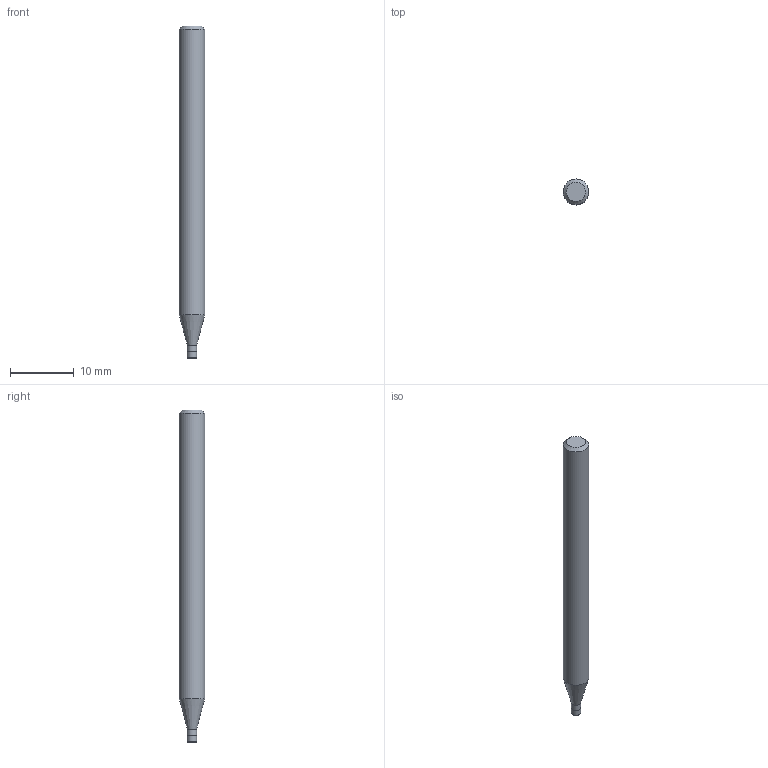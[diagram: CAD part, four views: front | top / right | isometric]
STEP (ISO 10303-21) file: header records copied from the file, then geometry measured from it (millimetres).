
FILE_DESCRIPTION((''),'2;1');
FILE_NAME('C:\Users\nsx150\AppData\Local\Temp\Mastercam 2021\LJSIDMOTM8\TEMP.step','2021-08-03T13:50:45',(''),(''),'STEP Write','Mastercam 2021 ... CNC Software, Inc.','');
FILE_SCHEMA(('AUTOMOTIVE_DESIGN'));
Length unit declared in the file: millimetre
Products named in the file (1): None
Bounding box: 4 x 4 x 52 mm (x, y, z)
Volume: 600.3 mm3; surface area: 633.5 mm2
Topology: 2 solids, 2 shells, 10 faces, 14 edges, 8 vertices
Faces by surface type: plane 4, cylinder 3, cone 2, torus 1
Full cylindrical faces by diameter (mm): 1.45 x1, 1.5 x1, 4 x1
Entity records: 232 total; most frequent: DIRECTION 40, CARTESIAN_POINT 28, AXIS2_PLACEMENT_3D 20, ORIENTED_EDGE 16, EDGE_LOOP 16, STYLED_ITEM 13, ADVANCED_FACE 10, FACE_BOUND 10
